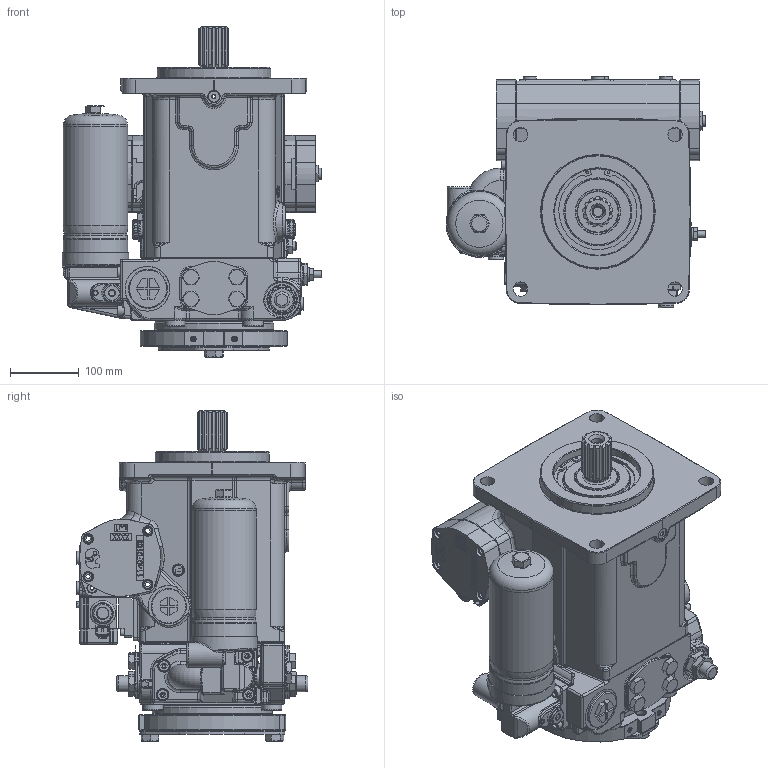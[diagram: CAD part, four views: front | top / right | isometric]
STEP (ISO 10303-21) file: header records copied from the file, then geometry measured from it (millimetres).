
FILE_DESCRIPTION (( 'STEP AP203' ), '1' );
FILE_NAME ('K11VG180.STEP', '2022-11-15T07:34:55', ( '' ), ( '' ), 'SwSTEP 2.0', 'SolidWorks 2015', '' );
FILE_SCHEMA (( 'CONFIG_CONTROL_DESIGN' ));
Length unit declared in the file: millimetre
Products named in the file (1): K11VG180
Bounding box: 377.5 x 336.7 x 480.1 mm (x, y, z)
Surface area: 965201.9 mm2 (no closed solid volume)
Topology: 0 solids, 126 shells, 2702 faces, 8855 edges, 6060 vertices
Faces by surface type: plane 1233, cylinder 621, bspline 477, cone 274, torus 89, sphere 8
Full cylindrical faces by diameter (mm): 3.909 x2, 8.5 x1, 9 x1, 10 x3, 10.5 x4, 10.7 x1, 12 x2, 14 x6, 14.8 x8, 15 x4, 15.8 x5, 16.5 x4, 17 x1, 18 x2, 19 x7, 19.63 x1, 21 x4, 22 x9, 23 x2, 25 x4, 26 x1, 26.7 x1, 27 x1, 30 x6, 33 x4, 34 x1, 35 x1, 36 x2, 37 x2, 40 x3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
Entity records: 134105 total; most frequent: CARTESIAN_POINT 64987, ORIENTED_EDGE 13643, DIRECTION 12699, EDGE_CURVE 8416, VERTEX_POINT 5937, LINE 4301, VECTOR 4301, AXIS2_PLACEMENT_3D 4199
